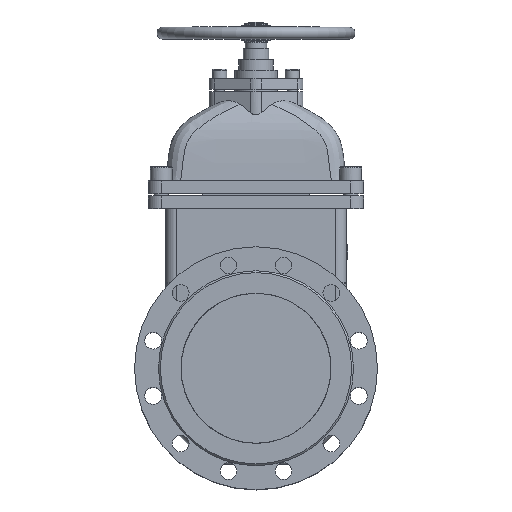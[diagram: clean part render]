
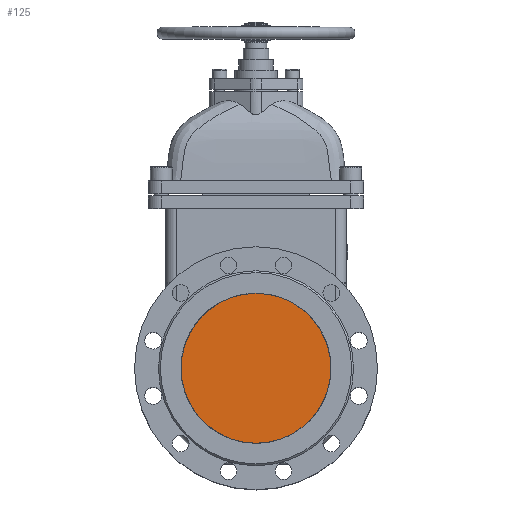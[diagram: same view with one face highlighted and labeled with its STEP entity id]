
A CAD part, top view. The second image highlights one B-rep face of the part: STEP entity #125.
In plain terms, the highlighted planar face has unit normal (0, 0, 1).
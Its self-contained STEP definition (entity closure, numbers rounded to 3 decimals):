
#125=ADVANCED_FACE('',(#1202),#1204,.F.);
#1202=FACE_BOUND('',#1203,.T.);
#1203=EDGE_LOOP('',(#6042));
#1204=PLANE('',#1205);
#1205=AXIS2_PLACEMENT_3D('',#1206,#1207,#1208);
#1206=CARTESIAN_POINT('',(0.,0.,124.25));
#1207=DIRECTION('',(0.,0.,-1.));
#1208=DIRECTION('',(-1.,0.,0.));
#6042=ORIENTED_EDGE('',*,*,#7794,.F.);
#7794=EDGE_CURVE('',#8617,#8617,#8618,.T.);
#8617=VERTEX_POINT('',#10012);
#8618=(BOUNDED_CURVE()B_SPLINE_CURVE(3,
(#10013,#10014,#10015,#10016,#10017,#10018,#10019),
.UNSPECIFIED.,.T.,.F.)B_SPLINE_CURVE_WITH_KNOTS((4,3,4),
(0.,0.5,1.),
.UNSPECIFIED.)CURVE()GEOMETRIC_REPRESENTATION_ITEM()RATIONAL_B_SPLINE_CURVE((1.,
0.333,0.333,1.,0.333,0.333,1.))
REPRESENTATION_ITEM(''));
#10012=CARTESIAN_POINT('',(0.,125.,124.25));
#10013=CARTESIAN_POINT('',(0.,125.,124.25));
#10014=CARTESIAN_POINT('',(250.,125.,124.25));
#10015=CARTESIAN_POINT('',(250.,-125.,124.25));
#10016=CARTESIAN_POINT('',(0.,-125.,124.25));
#10017=CARTESIAN_POINT('',(-250.,-125.,124.25));
#10018=CARTESIAN_POINT('',(-250.,125.,124.25));
#10019=CARTESIAN_POINT('',(0.,125.,124.25));
